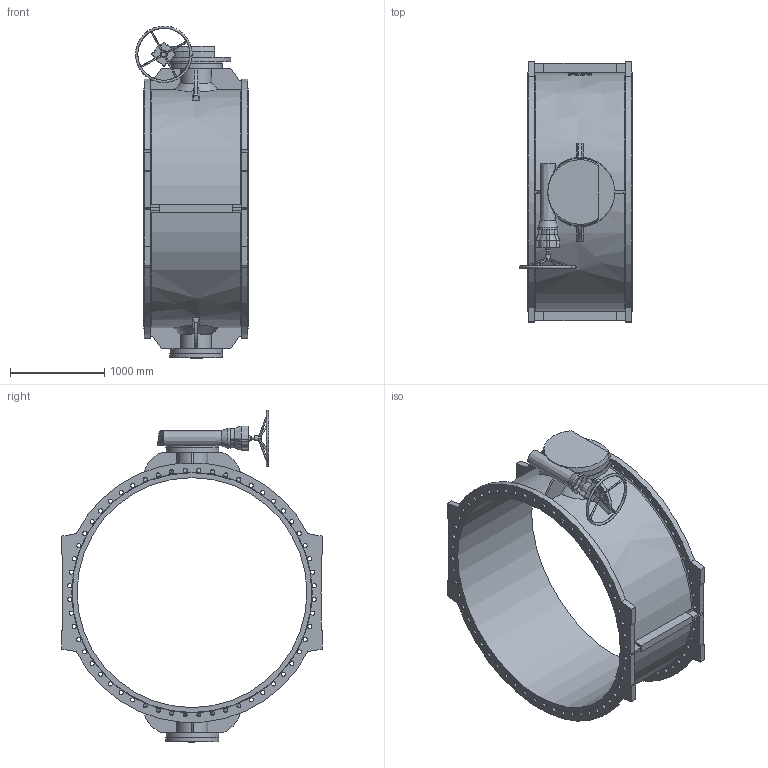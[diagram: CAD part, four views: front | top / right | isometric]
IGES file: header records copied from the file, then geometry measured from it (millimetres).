
Start section: SolidWorks IGES file using analytic representation for surfaces
Global section: file name: \\avksan2\techshare\PBM outline export from Enovia\O_756_100_DN2400_0X_REV01.igs; native system: SolidWorks 2019; preprocessor: SolidWorks 2019; author: pbm; date: 210930.103839; units: millimetre
Bounding box: 1197.61 x 2760 x 3523.48 mm (x, y, z)
Surface area: 27005856.7 mm2 (no closed solid volume)
Topology: 0 solids, 0 shells, 443 faces, 2429 edges, 2292 vertices
Faces by surface type: revolution 222, bspline 221
